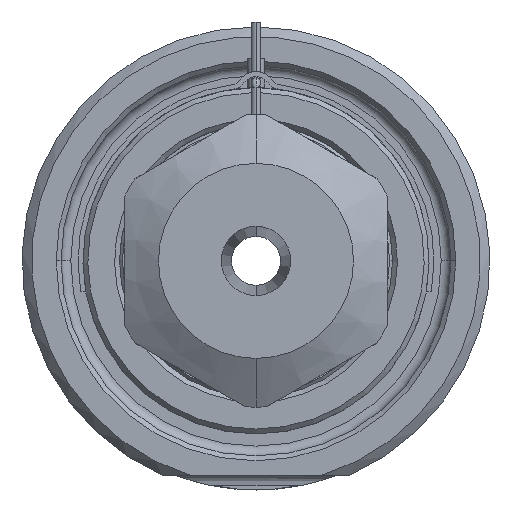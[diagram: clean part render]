
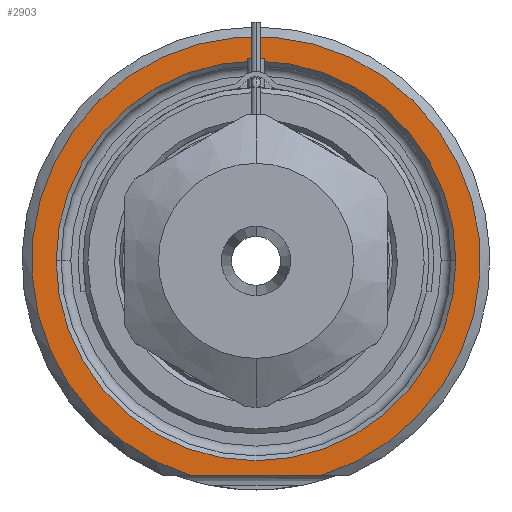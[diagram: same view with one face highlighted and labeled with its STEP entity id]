
A CAD part, front view. The second image highlights one B-rep face of the part: STEP entity #2903.
In plain terms, the highlighted planar face has unit normal (0, -1, 0).
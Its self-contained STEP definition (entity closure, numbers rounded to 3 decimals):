
#1=DIRECTION('',(1.,0.,0.));
#2=VECTOR('',#1,13.416);
#3=CARTESIAN_POINT('',(-6.708,0.,-22.));
#4=LINE('',#3,#2);
#5=CARTESIAN_POINT('',(0.,0.,0.));
#6=DIRECTION('',(0.,1.,0.));
#7=DIRECTION('',(-1.,0.,0.));
#8=AXIS2_PLACEMENT_3D('',#5,#6,#7);
#10=CARTESIAN_POINT('',(0.,0.,0.));
#11=DIRECTION('',(0.,1.,0.));
#12=DIRECTION('',(1.,0.,0.));
#13=AXIS2_PLACEMENT_3D('',#10,#11,#12);
#121=CARTESIAN_POINT('',(0.,0.,0.));
#122=DIRECTION('',(0.,-1.,0.));
#123=DIRECTION('',(0.292,0.,-0.957));
#124=AXIS2_PLACEMENT_3D('',#121,#122,#123);
#2417=CARTESIAN_POINT('',(-20.5,0.,0.));
#2418=CARTESIAN_POINT('',(20.5,0.,0.));
#2419=VERTEX_POINT('',#2417);
#2420=VERTEX_POINT('',#2418);
#2457=CARTESIAN_POINT('',(-6.708,0.,-22.));
#2458=CARTESIAN_POINT('',(6.708,0.,-22.));
#2459=VERTEX_POINT('',#2457);
#2460=VERTEX_POINT('',#2458);
#2886=CARTESIAN_POINT('',(0.,0.,0.));
#2887=DIRECTION('',(0.,-1.,0.));
#2888=DIRECTION('',(1.,0.,0.));
#2889=AXIS2_PLACEMENT_3D('',#2886,#2887,#2888);
#2890=PLANE('',#2889);
#2892=ORIENTED_EDGE('',*,*,#2891,.F.);
#2894=ORIENTED_EDGE('',*,*,#2893,.F.);
#2895=EDGE_LOOP('',(#2892,#2894));
#2896=FACE_OUTER_BOUND('',#2895,.F.);
#2898=ORIENTED_EDGE('',*,*,#2897,.F.);
#2900=ORIENTED_EDGE('',*,*,#2899,.F.);
#2901=EDGE_LOOP('',(#2898,#2900));
#2902=FACE_BOUND('',#2901,.F.);
#2903=ADVANCED_FACE('',(#2896,#2902),#2890,.T.);
#9=CIRCLE('',#8,20.5);
#14=CIRCLE('',#13,20.5);
#125=CIRCLE('',#124,23.);
#2891=EDGE_CURVE('',#2459,#2460,#4,.T.);
#2893=EDGE_CURVE('',#2460,#2459,#125,.T.);
#2897=EDGE_CURVE('',#2419,#2420,#9,.T.);
#2899=EDGE_CURVE('',#2420,#2419,#14,.T.);
